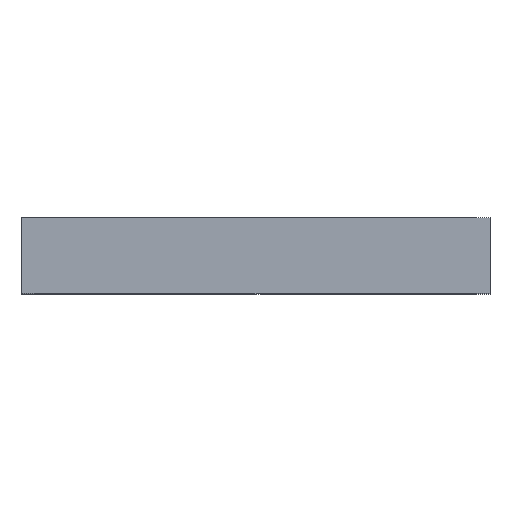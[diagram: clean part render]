
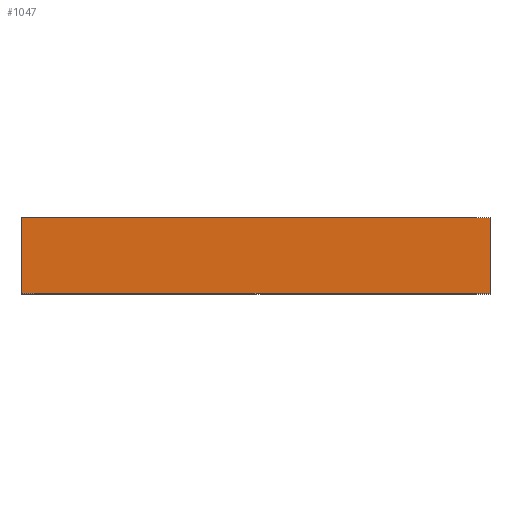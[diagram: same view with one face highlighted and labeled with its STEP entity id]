
A CAD part, top view. The second image highlights one B-rep face of the part: STEP entity #1047.
In plain terms, the highlighted planar face has unit normal (0, 0, 1).
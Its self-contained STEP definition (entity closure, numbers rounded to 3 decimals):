
#127 = EDGE_LOOP ( 'NONE', ( #470, #469, #181, #315 ) ) ;
#181 = ORIENTED_EDGE ( 'NONE', *, *, #1121, .F. ) ;
#193 = VECTOR ( 'NONE', #1014, 1000. ) ;
#194 = LINE ( 'NONE', #1013, #193 ) ;
#197 = VECTOR ( 'NONE', #1010, 1000. ) ;
#198 = LINE ( 'NONE', #1009, #197 ) ;
#203 = VECTOR ( 'NONE', #1004, 1000. ) ;
#225 = LINE ( 'NONE', #1000, #203 ) ;
#261 = VECTOR ( 'NONE', #943, 1000. ) ;
#262 = LINE ( 'NONE', #942, #261 ) ;
#315 = ORIENTED_EDGE ( 'NONE', *, *, #1091, .T. ) ;
#339 = FACE_OUTER_BOUND ( 'NONE', #127, .T. ) ;
#469 = ORIENTED_EDGE ( 'NONE', *, *, #1126, .F. ) ;
#470 = ORIENTED_EDGE ( 'NONE', *, *, #1124, .T. ) ;
#533 = VERTEX_POINT ( 'NONE', #676 ) ;
#539 = VERTEX_POINT ( 'NONE', #684 ) ;
#540 = VERTEX_POINT ( 'NONE', #685 ) ;
#602 = VERTEX_POINT ( 'NONE', #753 ) ;
#676 = CARTESIAN_POINT ( 'NONE',  ( -201., 0., 264.5 ) ) ;
#684 = CARTESIAN_POINT ( 'NONE',  ( 201., 65., 264.5 ) ) ;
#685 = CARTESIAN_POINT ( 'NONE',  ( -201., 65., 264.5 ) ) ;
#753 = CARTESIAN_POINT ( 'NONE',  ( 201., 0., 264.5 ) ) ;
#805 = PLANE ( 'NONE',  #1145 ) ;
#808 = CARTESIAN_POINT ( 'NONE',  ( -201., 65., 264.5 ) ) ;
#814 = DIRECTION ( 'NONE',  ( 0., 0., -1. ) ) ;
#815 = DIRECTION ( 'NONE',  ( -1., 0., 0. ) ) ;
#942 = CARTESIAN_POINT ( 'NONE',  ( -201., 65., 264.5 ) ) ;
#943 = DIRECTION ( 'NONE',  ( 0., -1., 0. ) ) ;
#1000 = CARTESIAN_POINT ( 'NONE',  ( -201., 65., 264.5 ) ) ;
#1004 = DIRECTION ( 'NONE',  ( 1., 0., 0. ) ) ;
#1009 = CARTESIAN_POINT ( 'NONE',  ( -201., 0., 264.5 ) ) ;
#1010 = DIRECTION ( 'NONE',  ( 1., 0., 0. ) ) ;
#1013 = CARTESIAN_POINT ( 'NONE',  ( 201., 65., 264.5 ) ) ;
#1014 = DIRECTION ( 'NONE',  ( 0., -1., 0. ) ) ;
#1047 = ADVANCED_FACE ( 'NONE', ( #339 ), #805, .F. ) ;
#1091 = EDGE_CURVE ( 'NONE', #540, #533, #262, .T. ) ;
#1121 = EDGE_CURVE ( 'NONE', #540, #539, #225, .T. ) ;
#1124 = EDGE_CURVE ( 'NONE', #533, #602, #198, .T. ) ;
#1126 = EDGE_CURVE ( 'NONE', #539, #602, #194, .T. ) ;
#1145 = AXIS2_PLACEMENT_3D ( 'NONE', #808, #814, #815 ) ;
